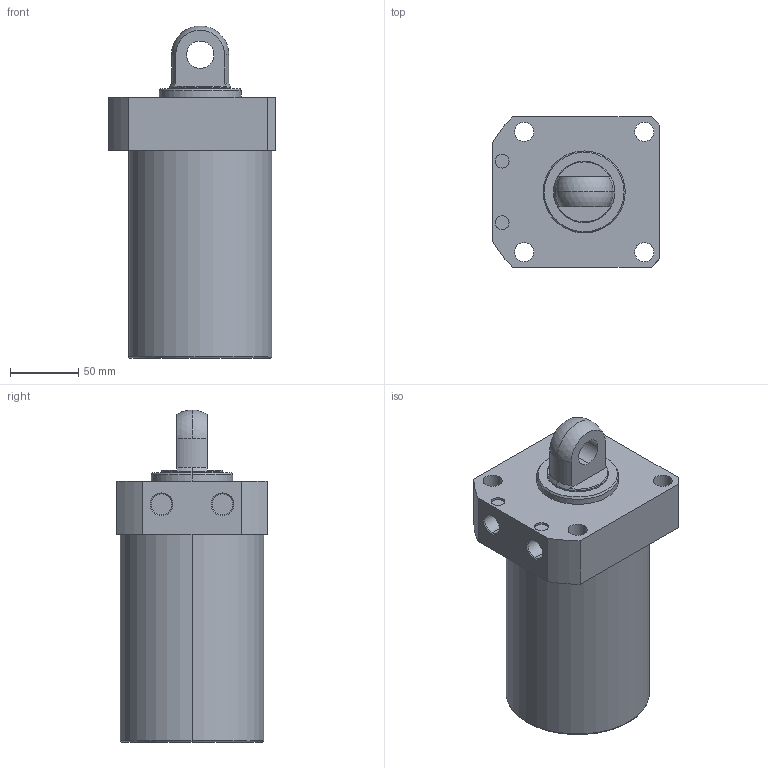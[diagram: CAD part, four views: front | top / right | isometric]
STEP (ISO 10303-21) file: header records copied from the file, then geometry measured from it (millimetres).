
FILE_DESCRIPTION (( 'STEP AP203' ), '1' );
FILE_NAME ('CLLR-105CP-105.STEP', '2019-12-18T08:05:48', ( '' ), ( '' ), 'SwSTEP 2.0', 'SolidWorks 2015', '' );
FILE_SCHEMA (( 'CONFIG_CONTROL_DESIGN' ));
Length unit declared in the file: millimetre
Products named in the file (1): CLLR-105CP-105
Bounding box: 122 x 110 x 243 mm (x, y, z)
Volume: 1842273.5 mm3; surface area: 107666.7 mm2
Topology: 1 solids, 1 shells, 59 faces, 139 edges, 89 vertices
Faces by surface type: cylinder 29, plane 18, cone 8, torus 2, sphere 2
Entity records: 1822 total; most frequent: DIRECTION 331, CARTESIAN_POINT 300, ORIENTED_EDGE 278, EDGE_CURVE 139, AXIS2_PLACEMENT_3D 136, VERTEX_POINT 89, CIRCLE 76, EDGE_LOOP 76
